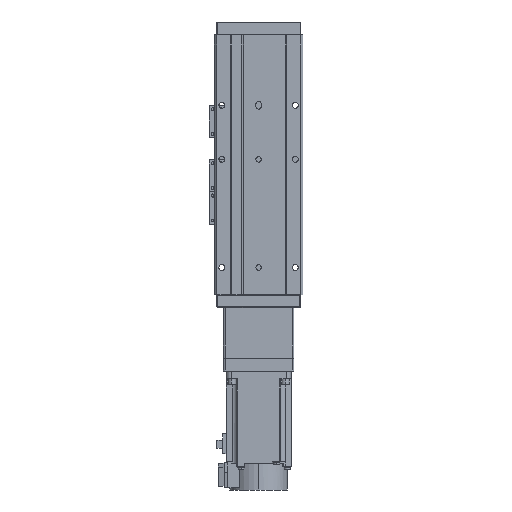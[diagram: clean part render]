
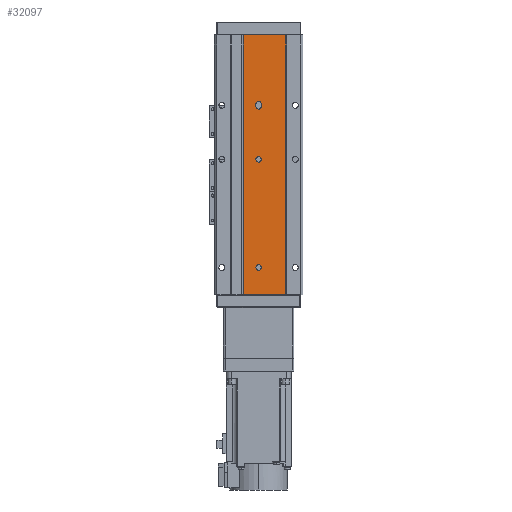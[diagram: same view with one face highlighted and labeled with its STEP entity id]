
A CAD part, front view. The second image highlights one B-rep face of the part: STEP entity #32097.
In plain terms, the highlighted planar face has unit normal (0, -1, 0).
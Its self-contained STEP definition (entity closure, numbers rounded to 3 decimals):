
#470 = ORIENTED_EDGE ( 'NONE', *, *, #10123, .F. ) ;
#670 = AXIS2_PLACEMENT_3D ( 'NONE', #21586, #33355, #6932 ) ;
#1155 = CARTESIAN_POINT ( 'NONE',  ( -25., 1., 120. ) ) ;
#1212 = CARTESIAN_POINT ( 'NONE',  ( 0., 1., -5. ) ) ;
#1282 = AXIS2_PLACEMENT_3D ( 'NONE', #17717, #29493, #3037 ) ;
#2210 = LINE ( 'NONE', #13987, #31421 ) ;
#2881 = VERTEX_POINT ( 'NONE', #4015 ) ;
#2901 = CARTESIAN_POINT ( 'NONE',  ( 14., 1., 120. ) ) ;
#2940 = VERTEX_POINT ( 'NONE', #30816 ) ;
#2979 = VERTEX_POINT ( 'NONE', #7468 ) ;
#3037 = DIRECTION ( 'NONE',  ( 0., 0., -1. ) ) ;
#3649 = ORIENTED_EDGE ( 'NONE', *, *, #13392, .F. ) ;
#4015 = CARTESIAN_POINT ( 'NONE',  ( -2.5, 1., -56. ) ) ;
#4068 = FACE_BOUND ( 'NONE', #19521, .T. ) ;
#5991 = DIRECTION ( 'NONE',  ( 0., -1., 0. ) ) ;
#6498 = DIRECTION ( 'NONE',  ( 0., 0., -1. ) ) ;
#6625 = VECTOR ( 'NONE', #37995, 1000. ) ;
#6907 = EDGE_LOOP ( 'NONE', ( #30425, #29550, #27248, #14553 ) ) ;
#6932 = DIRECTION ( 'NONE',  ( 0., 0., -1. ) ) ;
#6952 = DIRECTION ( 'NONE',  ( 0., 0., -1. ) ) ;
#7113 = DIRECTION ( 'NONE',  ( 0., -1., 0. ) ) ;
#7468 = CARTESIAN_POINT ( 'NONE',  ( -25., 1., 120. ) ) ;
#7861 = VECTOR ( 'NONE', #6498, 1000. ) ;
#7949 = DIRECTION ( 'NONE',  ( 0., 0., -1. ) ) ;
#8190 = ORIENTED_EDGE ( 'NONE', *, *, #37001, .F. ) ;
#8489 = VERTEX_POINT ( 'NONE', #26185 ) ;
#8743 = VERTEX_POINT ( 'NONE', #28408 ) ;
#8763 = EDGE_CURVE ( 'NONE', #29495, #2881, #22625, .T. ) ;
#9748 = DIRECTION ( 'NONE',  ( 0., -1., 0. ) ) ;
#10123 = EDGE_CURVE ( 'NONE', #8489, #23162, #36782, .T. ) ;
#10353 = VERTEX_POINT ( 'NONE', #11437 ) ;
#10448 = DIRECTION ( 'NONE',  ( 1., 0., 0. ) ) ;
#11369 = EDGE_CURVE ( 'NONE', #2881, #27678, #27553, .T. ) ;
#11437 = CARTESIAN_POINT ( 'NONE',  ( 2.5, 1., -54. ) ) ;
#11677 = ORIENTED_EDGE ( 'NONE', *, *, #16363, .F. ) ;
#12216 = EDGE_CURVE ( 'NONE', #29349, #8743, #29353, .T. ) ;
#12575 = CIRCLE ( 'NONE', #34112, 2.5 ) ;
#12930 = DIRECTION ( 'NONE',  ( 0., 1., 0. ) ) ;
#12988 = DIRECTION ( 'NONE',  ( 0., -1., 0. ) ) ;
#13392 = EDGE_CURVE ( 'NONE', #10353, #29495, #35051, .T. ) ;
#13744 = EDGE_LOOP ( 'NONE', ( #22450, #8190 ) ) ;
#13987 = CARTESIAN_POINT ( 'NONE',  ( -25., 1., -120. ) ) ;
#14553 = ORIENTED_EDGE ( 'NONE', *, *, #16947, .T. ) ;
#14672 = DIRECTION ( 'NONE',  ( 0., 0., -1. ) ) ;
#15839 = FACE_OUTER_BOUND ( 'NONE', #6907, .T. ) ;
#16363 = EDGE_CURVE ( 'NONE', #32552, #10353, #17340, .T. ) ;
#16947 = EDGE_CURVE ( 'NONE', #2979, #26203, #21162, .T. ) ;
#17291 = CIRCLE ( 'NONE', #670, 2.5 ) ;
#17340 = LINE ( 'NONE', #26231, #6625 ) ;
#17717 = CARTESIAN_POINT ( 'NONE',  ( 0., 1., 95. ) ) ;
#17756 = DIRECTION ( 'NONE',  ( 0., 0., -1. ) ) ;
#17888 = VERTEX_POINT ( 'NONE', #20294 ) ;
#17960 = CIRCLE ( 'NONE', #1282, 2.5 ) ;
#18426 = AXIS2_PLACEMENT_3D ( 'NONE', #21603, #33376, #6952 ) ;
#18728 = FACE_BOUND ( 'NONE', #28585, .T. ) ;
#18827 = VECTOR ( 'NONE', #7949, 1000. ) ;
#18864 = DIRECTION ( 'NONE',  ( 0., 0., -1. ) ) ;
#19521 = EDGE_LOOP ( 'NONE', ( #31045, #470 ) ) ;
#20158 = AXIS2_PLACEMENT_3D ( 'NONE', #1212, #12988, #24778 ) ;
#20294 = CARTESIAN_POINT ( 'NONE',  ( 0., 1., 97.5 ) ) ;
#20564 = EDGE_CURVE ( 'NONE', #26203, #8743, #2210, .T. ) ;
#21162 = LINE ( 'NONE', #32927, #7861 ) ;
#21294 = CARTESIAN_POINT ( 'NONE',  ( -25., 1., -120. ) ) ;
#21488 = EDGE_CURVE ( 'NONE', #2940, #17888, #17960, .T. ) ;
#21512 = DIRECTION ( 'NONE',  ( 0., 0., -1. ) ) ;
#21586 = CARTESIAN_POINT ( 'NONE',  ( 0., 1., -5. ) ) ;
#21603 = CARTESIAN_POINT ( 'NONE',  ( 0., 1., -54. ) ) ;
#22224 = CARTESIAN_POINT ( 'NONE',  ( 0., 1., -7.5 ) ) ;
#22450 = ORIENTED_EDGE ( 'NONE', *, *, #21488, .F. ) ;
#22621 = CARTESIAN_POINT ( 'NONE',  ( 0., 1., -58.5 ) ) ;
#22625 = LINE ( 'NONE', #34378, #18827 ) ;
#23153 = EDGE_CURVE ( 'NONE', #2979, #29349, #25129, .T. ) ;
#23162 = VERTEX_POINT ( 'NONE', #22224 ) ;
#24525 = VECTOR ( 'NONE', #14672, 1000. ) ;
#24713 = DIRECTION ( 'NONE',  ( 0., 0., 1. ) ) ;
#24720 = CARTESIAN_POINT ( 'NONE',  ( 14., 1., 120. ) ) ;
#24778 = DIRECTION ( 'NONE',  ( 0., 0., -1. ) ) ;
#25129 = LINE ( 'NONE', #36879, #28525 ) ;
#25763 = DIRECTION ( 'NONE',  ( 1., 0., 0. ) ) ;
#26185 = CARTESIAN_POINT ( 'NONE',  ( 0., 1., -2.5 ) ) ;
#26203 = VERTEX_POINT ( 'NONE', #21294 ) ;
#26231 = CARTESIAN_POINT ( 'NONE',  ( 2.5, 1., -54. ) ) ;
#27181 = CIRCLE ( 'NONE', #32093, 2.5 ) ;
#27248 = ORIENTED_EDGE ( 'NONE', *, *, #23153, .F. ) ;
#27494 = ORIENTED_EDGE ( 'NONE', *, *, #29618, .F. ) ;
#27553 = CIRCLE ( 'NONE', #32487, 2.5 ) ;
#27619 = PLANE ( 'NONE',  #37724 ) ;
#27678 = VERTEX_POINT ( 'NONE', #22621 ) ;
#28408 = CARTESIAN_POINT ( 'NONE',  ( 14., 1., -120. ) ) ;
#28525 = VECTOR ( 'NONE', #10448, 1000. ) ;
#28585 = EDGE_LOOP ( 'NONE', ( #31897, #3649, #11677, #27494, #31537 ) ) ;
#29349 = VERTEX_POINT ( 'NONE', #24720 ) ;
#29353 = LINE ( 'NONE', #2901, #24525 ) ;
#29493 = DIRECTION ( 'NONE',  ( 0., -1., 0. ) ) ;
#29495 = VERTEX_POINT ( 'NONE', #37431 ) ;
#29550 = ORIENTED_EDGE ( 'NONE', *, *, #12216, .F. ) ;
#29618 = EDGE_CURVE ( 'NONE', #27678, #32552, #12575, .T. ) ;
#30425 = ORIENTED_EDGE ( 'NONE', *, *, #20564, .T. ) ;
#30508 = FACE_BOUND ( 'NONE', #13744, .T. ) ;
#30816 = CARTESIAN_POINT ( 'NONE',  ( 0., 1., 92.5 ) ) ;
#31045 = ORIENTED_EDGE ( 'NONE', *, *, #36960, .F. ) ;
#31421 = VECTOR ( 'NONE', #25763, 1000. ) ;
#31537 = ORIENTED_EDGE ( 'NONE', *, *, #11369, .F. ) ;
#31897 = ORIENTED_EDGE ( 'NONE', *, *, #8763, .F. ) ;
#32093 = AXIS2_PLACEMENT_3D ( 'NONE', #33544, #7113, #18864 ) ;
#32097 = ADVANCED_FACE ( 'NONE', ( #18728, #30508, #4068, #15839 ), #27619, .F. ) ;
#32413 = CARTESIAN_POINT ( 'NONE',  ( 0., 1., -56. ) ) ;
#32487 = AXIS2_PLACEMENT_3D ( 'NONE', #36170, #9748, #21512 ) ;
#32552 = VERTEX_POINT ( 'NONE', #34283 ) ;
#32927 = CARTESIAN_POINT ( 'NONE',  ( -25., 1., 120. ) ) ;
#33355 = DIRECTION ( 'NONE',  ( 0., -1., 0. ) ) ;
#33376 = DIRECTION ( 'NONE',  ( 0., -1., 0. ) ) ;
#33544 = CARTESIAN_POINT ( 'NONE',  ( 0., 1., 95. ) ) ;
#34112 = AXIS2_PLACEMENT_3D ( 'NONE', #32413, #5991, #17756 ) ;
#34283 = CARTESIAN_POINT ( 'NONE',  ( 2.5, 1., -56. ) ) ;
#34378 = CARTESIAN_POINT ( 'NONE',  ( -2.5, 1., -54. ) ) ;
#35051 = CIRCLE ( 'NONE', #18426, 2.5 ) ;
#36170 = CARTESIAN_POINT ( 'NONE',  ( 0., 1., -56. ) ) ;
#36782 = CIRCLE ( 'NONE', #20158, 2.5 ) ;
#36879 = CARTESIAN_POINT ( 'NONE',  ( -25., 1., 120. ) ) ;
#36960 = EDGE_CURVE ( 'NONE', #23162, #8489, #17291, .T. ) ;
#37001 = EDGE_CURVE ( 'NONE', #17888, #2940, #27181, .T. ) ;
#37431 = CARTESIAN_POINT ( 'NONE',  ( -2.5, 1., -54. ) ) ;
#37724 = AXIS2_PLACEMENT_3D ( 'NONE', #1155, #12930, #24713 ) ;
#37995 = DIRECTION ( 'NONE',  ( 0., 0., 1. ) ) ;
